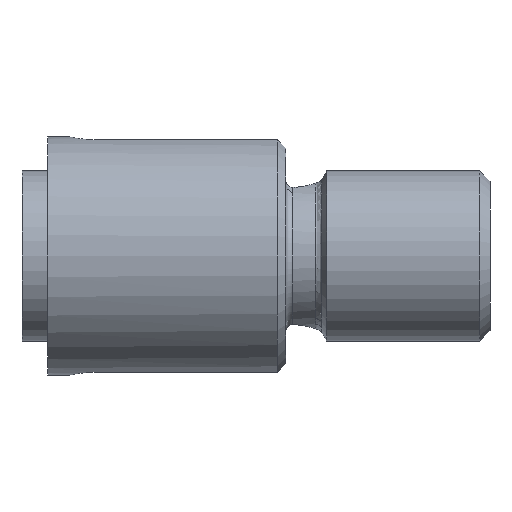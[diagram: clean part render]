
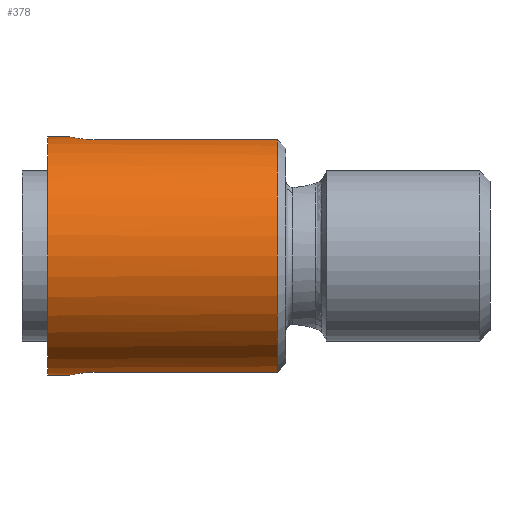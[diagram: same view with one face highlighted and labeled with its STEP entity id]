
A CAD part, left-side view. The second image highlights one B-rep face of the part: STEP entity #378.
In plain terms, the highlighted cylindrical face has radius 7 mm (diameter 14 mm), a partial arc.
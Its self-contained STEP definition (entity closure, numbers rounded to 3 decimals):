
#25 = AXIS2_PLACEMENT_3D ( 'NONE', #1160, #1420, #1731 ) ;
#40 = CYLINDRICAL_SURFACE ( 'NONE', #25, 7. ) ;
#47 = B_SPLINE_CURVE_WITH_KNOTS ( 'NONE', 3,
 ( #136, #101, #146, #182, #188, #209, #216, #226, #237, #255, #272, #279 ),
 .UNSPECIFIED., .F., .F.,
 ( 4, 2, 2, 2, 2, 4 ),
 ( 0.007, 0.007, 0.008, 0.008, 0.009, 0.009 ),
 .UNSPECIFIED. ) ;
#68 = VERTEX_POINT ( 'NONE', #659 ) ;
#83 = CARTESIAN_POINT ( 'NONE',  ( 0., 0., 0. ) ) ;
#84 = DIRECTION ( 'NONE',  ( 0., 1., 0. ) ) ;
#94 = DIRECTION ( 'NONE',  ( 0., 0., 1. ) ) ;
#101 = CARTESIAN_POINT ( 'NONE',  ( -1.5, -2.701, -6.837 ) ) ;
#109 = CARTESIAN_POINT ( 'NONE',  ( -1.5, 6.807, -6.837 ) ) ;
#134 = CARTESIAN_POINT ( 'NONE',  ( -1.5, -2.8, 6.837 ) ) ;
#135 = EDGE_CURVE ( 'NONE', #1271, #68, #177, .T. ) ;
#136 = CARTESIAN_POINT ( 'NONE',  ( -1.5, -2.8, -6.837 ) ) ;
#146 = CARTESIAN_POINT ( 'NONE',  ( -1.49, -2.603, -6.84 ) ) ;
#166 = B_SPLINE_CURVE_WITH_KNOTS ( 'NONE', 3,
 ( #283, #270, #256, #251, #248, #617, #637, #578, #634, #644, #1892, #1867 ),
 .UNSPECIFIED., .F., .F.,
 ( 4, 2, 2, 2, 2, 4 ),
 ( 0.005, 0.005, 0.006, 0.006, 0.006, 0.007 ),
 .UNSPECIFIED. ) ;
#175 = LINE ( 'NONE', #429, #511 ) ;
#177 = LINE ( 'NONE', #1222, #478 ) ;
#182 = CARTESIAN_POINT ( 'NONE',  ( -1.452, -2.411, -6.848 ) ) ;
#188 = CARTESIAN_POINT ( 'NONE',  ( -1.423, -2.316, -6.854 ) ) ;
#189 = LINE ( 'NONE', #1550, #2005 ) ;
#209 = CARTESIAN_POINT ( 'NONE',  ( -1.31, -2.044, -6.877 ) ) ;
#216 = CARTESIAN_POINT ( 'NONE',  ( -1.199, -1.878, -6.898 ) ) ;
#224 = DIRECTION ( 'NONE',  ( 0., 1., 0. ) ) ;
#226 = CARTESIAN_POINT ( 'NONE',  ( -0.923, -1.602, -6.94 ) ) ;
#236 = CARTESIAN_POINT ( 'NONE',  ( 0., -1.3, -7. ) ) ;
#237 = CARTESIAN_POINT ( 'NONE',  ( -0.757, -1.49, -6.961 ) ) ;
#245 = CARTESIAN_POINT ( 'NONE',  ( -1.5, -13.5, 6.837 ) ) ;
#248 = CARTESIAN_POINT ( 'NONE',  ( -0.922, -1.601, 6.94 ) ) ;
#251 = CARTESIAN_POINT ( 'NONE',  ( -0.755, -1.489, 6.961 ) ) ;
#255 = CARTESIAN_POINT ( 'NONE',  ( -0.396, -1.34, -6.991 ) ) ;
#256 = CARTESIAN_POINT ( 'NONE',  ( -0.394, -1.34, 6.991 ) ) ;
#270 = CARTESIAN_POINT ( 'NONE',  ( -0.196, -1.3, 7. ) ) ;
#272 = CARTESIAN_POINT ( 'NONE',  ( -0.199, -1.3, -7. ) ) ;
#279 = CARTESIAN_POINT ( 'NONE',  ( 0., -1.3, -7. ) ) ;
#283 = CARTESIAN_POINT ( 'NONE',  ( 0., -1.3, 7. ) ) ;
#291 = ORIENTED_EDGE ( 'NONE', *, *, #641, .F. ) ;
#298 = EDGE_CURVE ( 'NONE', #1004, #1904, #189, .T. ) ;
#354 = AXIS2_PLACEMENT_3D ( 'NONE', #83, #84, #94 ) ;
#376 = CARTESIAN_POINT ( 'NONE',  ( 0., -13.5, 0. ) ) ;
#378 = ADVANCED_FACE ( 'NONE', ( #2013 ), #40, .T. ) ;
#387 = EDGE_CURVE ( 'NONE', #1400, #590, #175, .T. ) ;
#429 = CARTESIAN_POINT ( 'NONE',  ( 0., 6.807, -7. ) ) ;
#478 = VECTOR ( 'NONE', #224, 1000. ) ;
#493 = VERTEX_POINT ( 'NONE', #872 ) ;
#511 = VECTOR ( 'NONE', #1336, 1000. ) ;
#538 = ORIENTED_EDGE ( 'NONE', *, *, #1946, .T. ) ;
#578 = CARTESIAN_POINT ( 'NONE',  ( -1.301, -2.047, 6.878 ) ) ;
#590 = VERTEX_POINT ( 'NONE', #1742 ) ;
#602 = EDGE_CURVE ( 'NONE', #590, #68, #654, .T. ) ;
#606 = ORIENTED_EDGE ( 'NONE', *, *, #1195, .F. ) ;
#617 = CARTESIAN_POINT ( 'NONE',  ( -1.13, -1.808, 6.909 ) ) ;
#634 = CARTESIAN_POINT ( 'NONE',  ( -1.347, -2.133, 6.869 ) ) ;
#637 = CARTESIAN_POINT ( 'NONE',  ( -1.193, -1.885, 6.898 ) ) ;
#641 = EDGE_CURVE ( 'NONE', #1510, #1400, #47, .T. ) ;
#644 = CARTESIAN_POINT ( 'NONE',  ( -1.461, -2.407, 6.846 ) ) ;
#654 = CIRCLE ( 'NONE', #354, 7. ) ;
#659 = CARTESIAN_POINT ( 'NONE',  ( 0., 0., 7. ) ) ;
#872 = CARTESIAN_POINT ( 'NONE',  ( -1.5, -13.5, -6.837 ) ) ;
#984 = ORIENTED_EDGE ( 'NONE', *, *, #602, .F. ) ;
#1002 = ORIENTED_EDGE ( 'NONE', *, *, #135, .T. ) ;
#1004 = VERTEX_POINT ( 'NONE', #245 ) ;
#1160 = CARTESIAN_POINT ( 'NONE',  ( 0., 6.807, 0. ) ) ;
#1195 = EDGE_CURVE ( 'NONE', #1271, #1904, #166, .T. ) ;
#1222 = CARTESIAN_POINT ( 'NONE',  ( 0., 6.807, 7. ) ) ;
#1234 = AXIS2_PLACEMENT_3D ( 'NONE', #376, #1357, #1491 ) ;
#1271 = VERTEX_POINT ( 'NONE', #1483 ) ;
#1336 = DIRECTION ( 'NONE',  ( 0., 1., 0. ) ) ;
#1349 = DIRECTION ( 'NONE',  ( 0., -1., 0. ) ) ;
#1357 = DIRECTION ( 'NONE',  ( 0., 1., 0. ) ) ;
#1400 = VERTEX_POINT ( 'NONE', #236 ) ;
#1420 = DIRECTION ( 'NONE',  ( 0., 1., 0. ) ) ;
#1482 = VECTOR ( 'NONE', #1349, 1000. ) ;
#1483 = CARTESIAN_POINT ( 'NONE',  ( 0., -1.3, 7. ) ) ;
#1491 = DIRECTION ( 'NONE',  ( 0., 0., -1. ) ) ;
#1510 = VERTEX_POINT ( 'NONE', #1978 ) ;
#1550 = CARTESIAN_POINT ( 'NONE',  ( -1.5, 6.807, 6.837 ) ) ;
#1649 = ORIENTED_EDGE ( 'NONE', *, *, #298, .T. ) ;
#1731 = DIRECTION ( 'NONE',  ( 0., 0., 1. ) ) ;
#1742 = CARTESIAN_POINT ( 'NONE',  ( 0., 0., -7. ) ) ;
#1749 = LINE ( 'NONE', #109, #1482 ) ;
#1830 = DIRECTION ( 'NONE',  ( 0., 1., 0. ) ) ;
#1867 = CARTESIAN_POINT ( 'NONE',  ( -1.5, -2.8, 6.837 ) ) ;
#1892 = CARTESIAN_POINT ( 'NONE',  ( -1.5, -2.602, 6.837 ) ) ;
#1904 = VERTEX_POINT ( 'NONE', #134 ) ;
#1908 = CIRCLE ( 'NONE', #1234, 7. ) ;
#1915 = EDGE_CURVE ( 'NONE', #493, #1004, #1908, .T. ) ;
#1946 = EDGE_CURVE ( 'NONE', #1510, #493, #1749, .T. ) ;
#1978 = CARTESIAN_POINT ( 'NONE',  ( -1.5, -2.8, -6.837 ) ) ;
#1983 = ORIENTED_EDGE ( 'NONE', *, *, #387, .F. ) ;
#2005 = VECTOR ( 'NONE', #1830, 1000. ) ;
#2013 = FACE_OUTER_BOUND ( 'NONE', #2091, .T. ) ;
#2066 = ORIENTED_EDGE ( 'NONE', *, *, #1915, .T. ) ;
#2091 = EDGE_LOOP ( 'NONE', ( #1983, #291, #538, #2066, #1649, #606, #1002, #984 ) ) ;
